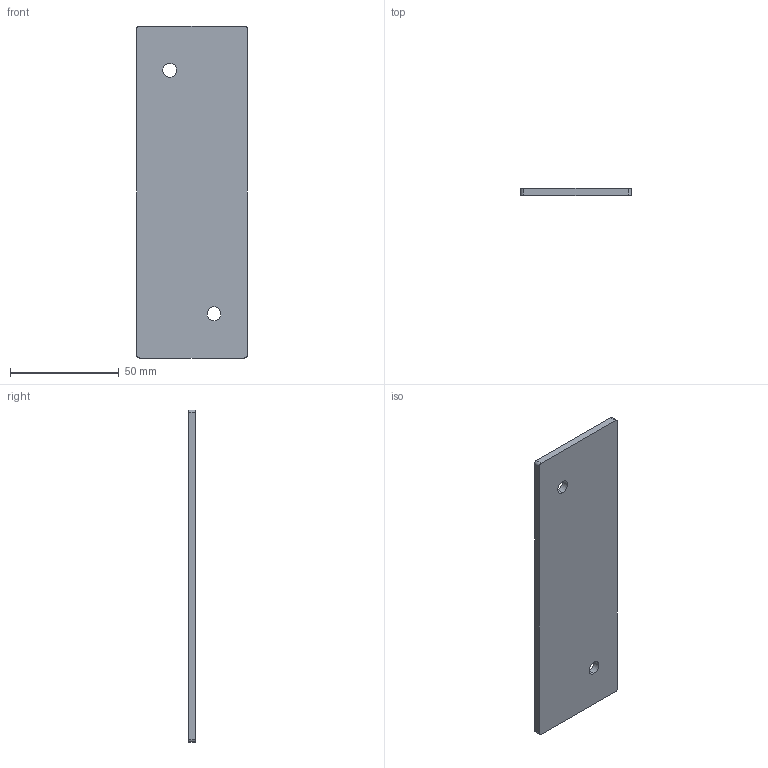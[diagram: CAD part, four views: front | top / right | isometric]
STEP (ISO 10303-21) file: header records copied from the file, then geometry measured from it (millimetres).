
FILE_DESCRIPTION (( 'STEP AP214' ), '1' );
FILE_NAME ('Guide PL.STEP', '2020-05-25T15:56:51', ( '' ), ( '' ), 'SwSTEP 2.0', 'SolidWorks 2020', '' );
FILE_SCHEMA (( 'AUTOMOTIVE_DESIGN' ));
Length unit declared in the file: inch
Products named in the file (1): Guide PL
Bounding box: 50.67 x 3.17 x 152.4 mm (x, y, z)
Volume: 24313.6 mm3; surface area: 16725 mm2
Topology: 1 solids, 1 shells, 14 faces, 36 edges, 24 vertices
Faces by surface type: cylinder 8, plane 6
Entity records: 484 total; most frequent: DIRECTION 82, CARTESIAN_POINT 75, ORIENTED_EDGE 72, EDGE_CURVE 36, AXIS2_PLACEMENT_3D 31, VERTEX_POINT 24, LINE 20, VECTOR 20
